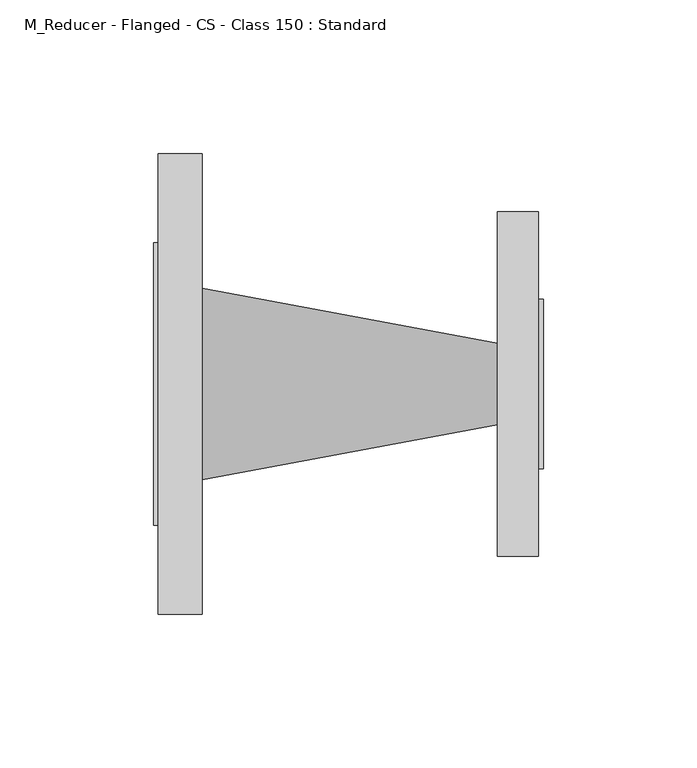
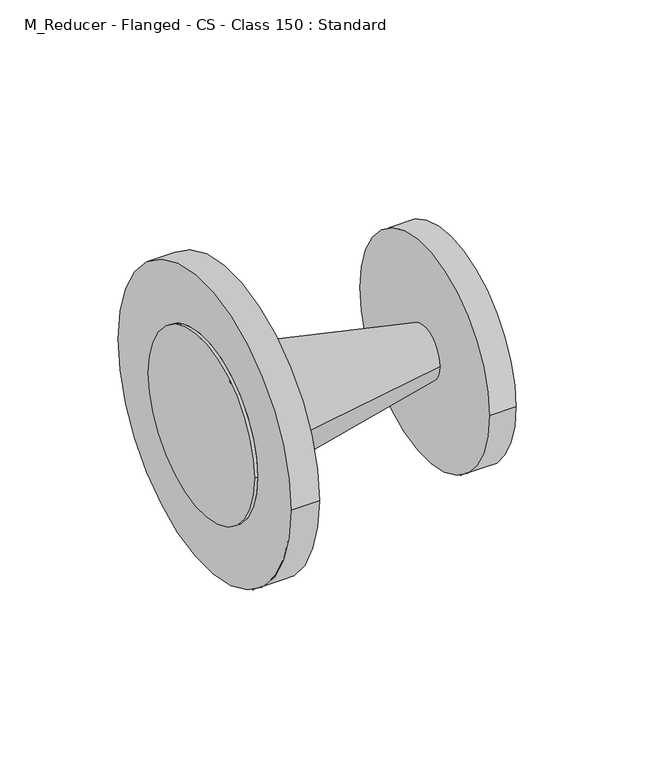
"""IFC4 building model written with IfcOpenShell, lengths in millimetres: pipe fitting geometry, M_Reducer - Flanged - CS - Class 150 : Standard."""

from ifc_helpers import new_model, si_unit, frame, origin, place, context, project, spatial, polyline, circle_curve, source, transform, mapped, element, save
from ifc_brep_helpers import plane_surface, cylinder_surface, revolved_surface, advanced_brep


def m_reducer_flanged_cs_class_150_standard_9dfe9ec5(model_context):
    return source(origin(), model_context, "Body", "AdvancedBrep", [
        advanced_brep(
        [(15.8875, 75.0, 0.0), (15.8875, -75.0, 0.0), (15.8875, -31.1, 0.0), (15.8875, 31.1, 0.0), (1.5875, 75.0, 0.0), (1.5875, -75.0, 0.0), (1.5875, 46.05, 0.0), (1.5875, -46.05, 0.0), (112.0109375, 13.2558594, 0.0), (112.0109375, -13.2558594, 0.0), (125.4125, 56.1554688, 0.0), (125.4125, -56.1554687, 0.0), (125.4125, -27.5976562, 0.0), (125.4125, 27.5976563, 0.0), (112.0109375, 56.1554688, 0.0), (112.0109375, -56.1554687, 0.0), (0.0, 46.05, 0.0), (0.0, -46.05, 0.0), (127.0, 27.5976563, 0.0), (127.0, -27.5976562, 0.0)],
        [
            (0, 1, circle_curve(frame((15.8875, 0.0, 0.0), z_axis=(1.0, 0.0, 0.0), x_axis=(0.0, -1.0, 0.0)), 75.0)),
            (1, 0, circle_curve(frame((15.8875, 0.0, 0.0), z_axis=(1.0, 0.0, 0.0), x_axis=(0.0, -1.0, 0.0)), 75.0)),
            (2, 3, circle_curve(frame((15.8875, 0.0, 0.0), z_axis=(-1.0, 0.0, 0.0), x_axis=(0.0, -1.0, 0.0)), 31.1)),
            (3, 2, circle_curve(frame((15.8875, 0.0, 0.0), z_axis=(-1.0, 0.0, 0.0), x_axis=(0.0, 1.0, 0.0)), 31.1)),
            (4, 5, circle_curve(frame((1.5875, 0.0, 0.0), z_axis=(-1.0, 0.0, 0.0), x_axis=(0.0, -1.0, 0.0)), 75.0)),
            (5, 4, circle_curve(frame((1.5875, 0.0, 0.0), z_axis=(-1.0, 0.0, 0.0), x_axis=(0.0, -1.0, 0.0)), 75.0)),
            (6, 7, circle_curve(frame((1.5875, 0.0, 0.0), z_axis=(1.0, 0.0, 0.0), x_axis=(0.0, -1.0, 0.0)), 46.05)),
            (7, 6, circle_curve(frame((1.5875, 0.0, 0.0), z_axis=(1.0, 0.0, 0.0), x_axis=(0.0, -1.0, 0.0)), 46.05)),
            (1, 5),
            (4, 0),
            (3, 8),
            (8, 9, circle_curve(frame((112.0109375, 0.0, 0.0), z_axis=(-1.0, 0.0, 0.0), x_axis=(0.0, 1.0, 0.0)), 13.2558594)),
            (9, 2),
            (9, 8, circle_curve(frame((112.0109375, 0.0, 0.0), z_axis=(-1.0, 0.0, 0.0), x_axis=(0.0, -1.0, 0.0)), 13.2558594)),
            (10, 11, circle_curve(frame((125.4125, 0.0, 0.0), z_axis=(1.0, 0.0, 0.0), x_axis=(0.0, -1.0, 0.0)), 56.1554687)),
            (11, 10, circle_curve(frame((125.4125, 0.0, 0.0), z_axis=(1.0, 0.0, 0.0), x_axis=(0.0, -1.0, 0.0)), 56.1554687)),
            (12, 13, circle_curve(frame((125.4125, 0.0, 0.0), z_axis=(-1.0, 0.0, 0.0), x_axis=(0.0, -1.0, 0.0)), 27.5976563)),
            (13, 12, circle_curve(frame((125.4125, 0.0, 0.0), z_axis=(-1.0, 0.0, 0.0), x_axis=(0.0, -1.0, 0.0)), 27.5976563)),
            (14, 15, circle_curve(frame((112.0109375, 0.0, 0.0), z_axis=(-1.0, 0.0, 0.0), x_axis=(0.0, -1.0, 0.0)), 56.1554687)),
            (15, 14, circle_curve(frame((112.0109375, 0.0, 0.0), z_axis=(-1.0, 0.0, 0.0), x_axis=(0.0, -1.0, 0.0)), 56.1554687)),
            (11, 15),
            (14, 10),
            (16, 17, circle_curve(frame((0.0, 0.0, 0.0), z_axis=(-1.0, 0.0, 0.0), x_axis=(0.0, -1.0, 0.0)), 46.05)),
            (17, 16, circle_curve(frame((0.0, 0.0, 0.0), z_axis=(-1.0, 0.0, 0.0), x_axis=(0.0, -1.0, 0.0)), 46.05)),
            (16, 6),
            (7, 17),
            (18, 19, circle_curve(frame((127.0, 0.0, 0.0), z_axis=(1.0, 0.0, 0.0), x_axis=(0.0, -1.0, 0.0)), 27.5976563)),
            (19, 18, circle_curve(frame((127.0, 0.0, 0.0), z_axis=(1.0, 0.0, 0.0), x_axis=(0.0, -1.0, 0.0)), 27.5976563)),
            (19, 12),
            (13, 18),
        ],
        [
            plane_surface(frame((15.8875, -75.0, 0.0), z_axis=(1.0, 0.0, 0.0), x_axis=(0.0, 0.0, 1.0))),
            plane_surface(frame((1.5875, -75.0, 0.0), z_axis=(-1.0, 0.0, 0.0), x_axis=(0.0, 0.0, -1.0))),
            cylinder_surface(frame((1.5875, 0.0, 0.0), z_axis=(1.0, 0.0, 0.0), x_axis=(0.0, -1.0, 0.0)), 75.0),
            revolved_surface(polyline([(112.0109375, -13.255859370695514, 0.0), (15.887499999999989, -31.1, 0.0)]), (183.4180619, 0.0, 0.0), (-1.0, 0.0, 0.0)),
            revolved_surface(polyline([(112.0109375, 13.255859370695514, 0.0), (15.887499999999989, 31.1, 0.0)]), (183.4180619, 0.0, 0.0), (-1.0, 0.0, 0.0)),
            plane_surface(frame((125.4125, -56.1554687, 0.0), z_axis=(1.0, 0.0, 0.0), x_axis=(0.0, 0.0, 1.0))),
            plane_surface(frame((112.0109375, -56.1554687, 0.0), z_axis=(-1.0, 0.0, 0.0), x_axis=(0.0, 0.0, -1.0))),
            cylinder_surface(frame((112.0109375, 0.0, 0.0), z_axis=(1.0, 0.0, 0.0), x_axis=(0.0, -1.0, 0.0)), 56.1554687),
            plane_surface(frame((0.0, -46.05, 0.0), z_axis=(-1.0, 0.0, 0.0), x_axis=(0.0, 0.0, -1.0))),
            cylinder_surface(frame((0.0, 0.0, 0.0), z_axis=(1.0, 0.0, 0.0), x_axis=(0.0, -1.0, 0.0)), 46.05),
            plane_surface(frame((127.0, -27.5976562, 0.0), z_axis=(1.0, 0.0, 0.0), x_axis=(0.0, 0.0, 1.0))),
            cylinder_surface(frame((125.4125, 0.0, 0.0), z_axis=(1.0, 0.0, 0.0), x_axis=(0.0, -1.0, 0.0)), 27.5976563),
        ],
        [
            (0, [[1, 2], [3, 4]]),
            (1, [[5, 6], [7, 8]]),
            (2, [[9, -5, 10, -2]]),
            (2, [[-10, -6, -9, -1]]),
            (3, [[-4, 11, 12, 13]]),
            (4, [[14, -11, -3, -13]]),
            (5, [[15, 16], [17, 18]]),
            (6, [[19, 20], [-14, -12]]),
            (7, [[21, -19, 22, -16]]),
            (7, [[-22, -20, -21, -15]]),
            (8, [[23, 24]]),
            (9, [[25, -8, 26, -23]]),
            (9, [[-26, -7, -25, -24]]),
            (10, [[27, 28]]),
            (11, [[29, -18, 30, -28]]),
            (11, [[-30, -17, -29, -27]]),
        ],
    ),
    ])


if __name__ == "__main__":
    model = new_model("IFC4")
    model_context = context("Model", 3, world=origin())
    ifc_project = project(units=[si_unit("LENGTHUNIT", "METRE", prefix="MILLI")], contexts=[model_context])
    site = spatial("IfcSite", under=ifc_project)
    building = spatial("IfcBuilding", under=site)
    placement = place(None, origin())
    m_reducer_flanged_cs_class_150_standard_shape = m_reducer_flanged_cs_class_150_standard_9dfe9ec5(model_context)
    element("IfcPipeFitting", 1, ObjectType="M_Reducer - Flanged - CS - Class 150 : Standard", at=placement, inside=building, context=model_context, shape_type="MappedRepresentation", body=[
        mapped(m_reducer_flanged_cs_class_150_standard_shape, transform((0.0, 0.0, 0.0), x_axis=(1.0, 0.0, 0.0), y_axis=(0.0, 1.0, 0.0), z_axis=(0.0, 0.0, 1.0))),
    ])
    save(model, "model.ifc")
